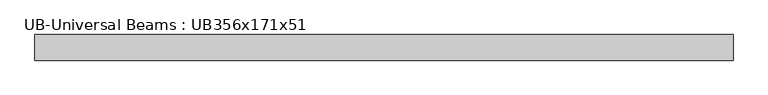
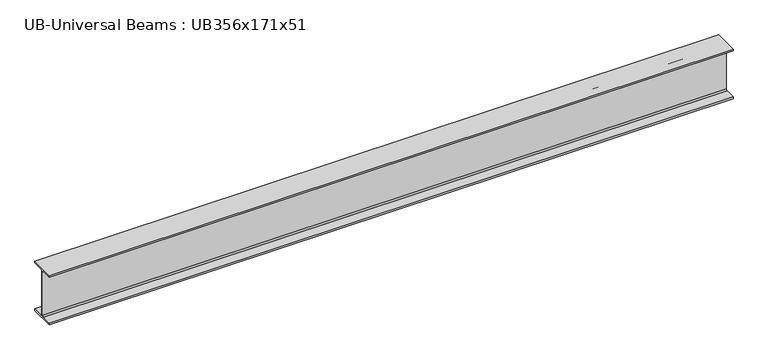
"""IFC4 building model written with IfcOpenShell, lengths in millimetres: beam geometry, UB-Universal Beams : UB356x171x51."""

from ifc_helpers import new_model, si_unit, point, frame, frame_2d, origin, place, context, project, spatial, polyline, circle_curve, trimmed, segment, composite_curve, outline, extrude, source, transform, mapped, element, save


def ub_universal_beams_ub356x171x51_405a853e(model_context):
    return source(origin(), model_context, "Body", "SweptSolid", [
        extrude(outline(composite_curve([segment(polyline([(85.75, -166.0), (85.75, -177.5), (-85.75, -177.5), (-85.75, -166.0), (-13.9, -166.0)]), True, "CONTINUOUS"), segment(trimmed(circle_curve(frame_2d((-13.9, -155.8)), 10.2), [point((-13.9, -166.0))], [point((-3.7, -155.8))], True, "CARTESIAN"), True, "CONTINUOUS"), segment(polyline([(-3.7, -155.8), (-3.7, 155.8)]), True, "CONTINUOUS"), segment(trimmed(circle_curve(frame_2d((-13.9, 155.8)), 10.2), [point((-3.7, 155.8))], [point((-13.9, 166.0))], True, "CARTESIAN"), True, "CONTINUOUS"), segment(polyline([(-13.9, 166.0), (-85.75, 166.0), (-85.75, 177.5), (85.75, 177.5), (85.75, 166.0), (13.9, 166.0)]), True, "CONTINUOUS"), segment(trimmed(circle_curve(frame_2d((13.9, 155.8)), 10.2), [point((13.9, 166.0))], [point((3.7, 155.8))], True, "CARTESIAN"), True, "CONTINUOUS"), segment(polyline([(3.7, 155.8), (3.7, -155.8)]), True, "CONTINUOUS"), segment(trimmed(circle_curve(frame_2d((13.9, -155.8)), 10.2), [point((3.7, -155.8))], [point((13.9, -166.0))], True, "CARTESIAN"), True, "CONTINUOUS"), segment(polyline([(13.9, -166.0), (85.75, -166.0)]), True, "CONTINUOUS")], self_intersect=False)), frame((-2362.1, 0.0, 0.0), z_axis=(1.0, 0.0, 0.0), x_axis=(0.0, 1.0, 0.0)), (0.0, 0.0, 1.0), 4664.2),
    ])


if __name__ == "__main__":
    model = new_model("IFC4")
    model_context = context("Model", 3, world=origin())
    ifc_project = project(units=[si_unit("LENGTHUNIT", "METRE", prefix="MILLI")], contexts=[model_context])
    site = spatial("IfcSite", under=ifc_project)
    building = spatial("IfcBuilding", under=site)
    placement = place(None, origin())
    ub_universal_beams_ub356x171x51_shape = ub_universal_beams_ub356x171x51_405a853e(model_context)
    element("IfcBeam", 1, ObjectType="UB-Universal Beams : UB356x171x51", at=placement, inside=building, context=model_context, shape_type="MappedRepresentation", body=[
        mapped(ub_universal_beams_ub356x171x51_shape, transform((0.0, 0.0, 0.0), x_axis=(1.0, 0.0, 0.0), y_axis=(0.0, 1.0, 0.0), z_axis=(0.0, 0.0, 1.0))),
    ])
    save(model, "model.ifc")
